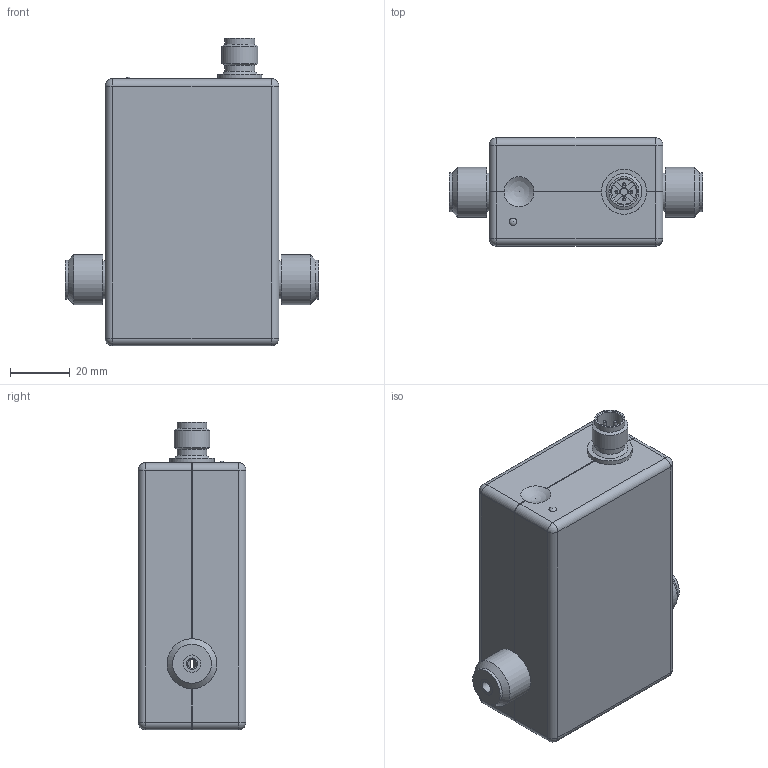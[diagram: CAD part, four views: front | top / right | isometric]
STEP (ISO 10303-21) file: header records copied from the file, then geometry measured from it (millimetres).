
FILE_DESCRIPTION(/* description */ ('VMZ.2 03 G=G 3/8 B, D2=Ø3,8'),/* implementation_level */ '2;1');
FILE_NAME(/* name */ 'F:\Tausch\kuelper\3D-Modelle\VMZ032S1PEGY4000.stp',/* time_stamp */ '2021-01-27T11:51:07+01:00',/* author */ ('kuelper'),/* organization */ (''),/* preprocessor_version */ 'ST-DEVELOPER v18',/* originating_system */ 'Autodesk Inventor 2020',/* authorisation */ '');
FILE_SCHEMA (('AUTOMOTIVE_DESIGN { 1 0 10303 214 3 1 1 }'));
Length unit declared in the file: millimetre
Products named in the file (1): MID-0778
Bounding box: 84.5 x 36 x 102.5 mm (x, y, z)
Volume: 190175.5 mm3; surface area: 26139.6 mm2
Topology: 3 solids, 3 shells, 123 faces, 337 edges, 218 vertices
Faces by surface type: plane 56, cylinder 47, sphere 14, cone 6
Full cylindrical faces by diameter (mm): 1 x4, 2.5 x1, 3 x1, 3.82 x2, 5.82 x2, 5.84 x2, 8.3 x1, 10 x2, 12 x1, 12.66 x2, 13 x2, 15 x1, 16.66 x2
Entity records: 4125 total; most frequent: DIRECTION 745, CARTESIAN_POINT 665, ORIENTED_EDGE 646, EDGE_CURVE 323, AXIS2_PLACEMENT_3D 298, VERTEX_POINT 218, CIRCLE 170, LINE 149
